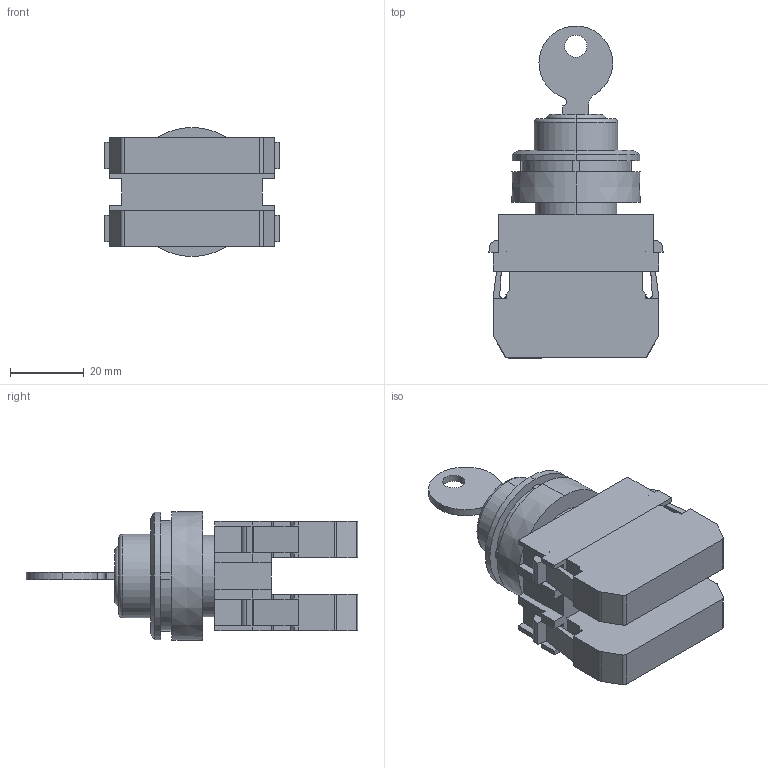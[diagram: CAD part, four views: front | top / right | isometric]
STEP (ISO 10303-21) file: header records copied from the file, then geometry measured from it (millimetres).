
FILE_DESCRIPTION (( 'STEP AP214' ), '1' );
FILE_NAME ('B5SATT 0.STEP', '2012-02-08T06:43:20', ( 'schulung' ), ( 'Microsoft' ), 'SwSTEP 2.0', 'SolidWorks 2012', '' );
FILE_SCHEMA (( 'AUTOMOTIVE_DESIGN' ));
Length unit declared in the file: millimetre
Products named in the file (3): B3T; B5SATT 0
Assembly tree (3 placements, depth 2):
  B5SATT 0
    B5SATT 0
    B3T  x2
Bounding box: 47.2 x 90 x 35 mm (x, y, z)
Volume: 54996.5 mm3; surface area: 19263 mm2
Topology: 4 solids, 4 shells, 241 faces, 656 edges, 430 vertices
Faces by surface type: plane 174, cylinder 55, cone 8, torus 4
Entity records: 5457 total; most frequent: CARTESIAN_POINT 939, ORIENTED_EDGE 920, DIRECTION 914, EDGE_CURVE 460, LINE 360, VECTOR 360, VERTEX_POINT 302, AXIS2_PLACEMENT_3D 277
